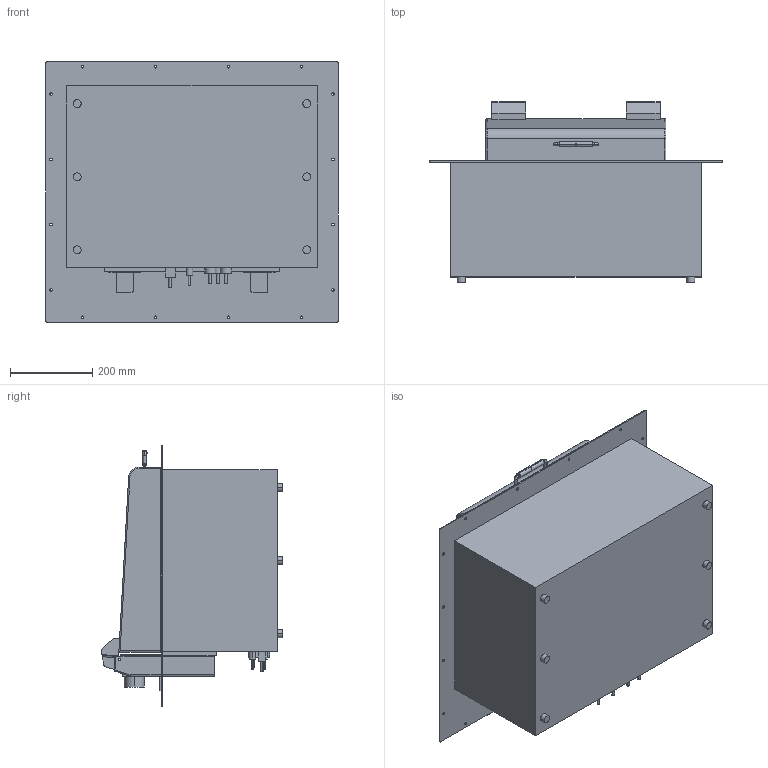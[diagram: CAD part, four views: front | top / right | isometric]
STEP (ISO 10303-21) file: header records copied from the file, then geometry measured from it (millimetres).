
FILE_DESCRIPTION((''),'2;1');
FILE_NAME('A-F-B3_ENVELOPE_ASM','2025-05-07T09:24:11',('bwaterworth'),(''),'CREO PARAMETRIC BY PTC INC, 2020354','CREO PARAMETRIC BY PTC INC, 2020354','');
FILE_SCHEMA(('CONFIG_CONTROL_DESIGN'));
Length unit declared in the file: inch
Products named in the file (6): A-F-B3_ENVELOPE; A-B-B3LID_ENVELOPE; 611534-1; 611534-2; 611534_ASM; A-F-B3_ENVELOPE_ASM
Assembly tree (5 placements, depth 3):
  A-F-B3_ENVELOPE_ASM
    A-F-B3_ENVELOPE
    A-B-B3LID_ENVELOPE
    611534_ASM
      611534-1
      611534-2
Bounding box: 711.2 x 439.62 x 635 mm (x, y, z)
Volume: 95594098.2 mm3; surface area: 2281563.9 mm2
Topology: 5 solids, 5 shells, 371 faces, 943 edges, 613 vertices
Faces by surface type: cylinder 181, plane 163, bspline 10, torus 7, cone 6, sphere 4
Entity records: 18161 total; most frequent: CARTESIAN_POINT 8938, ORIENTED_EDGE 1886, DIRECTION 1869, EDGE_CURVE 943, AXIS2_PLACEMENT_3D 667, VERTEX_POINT 613, VECTOR 535, LINE 535
